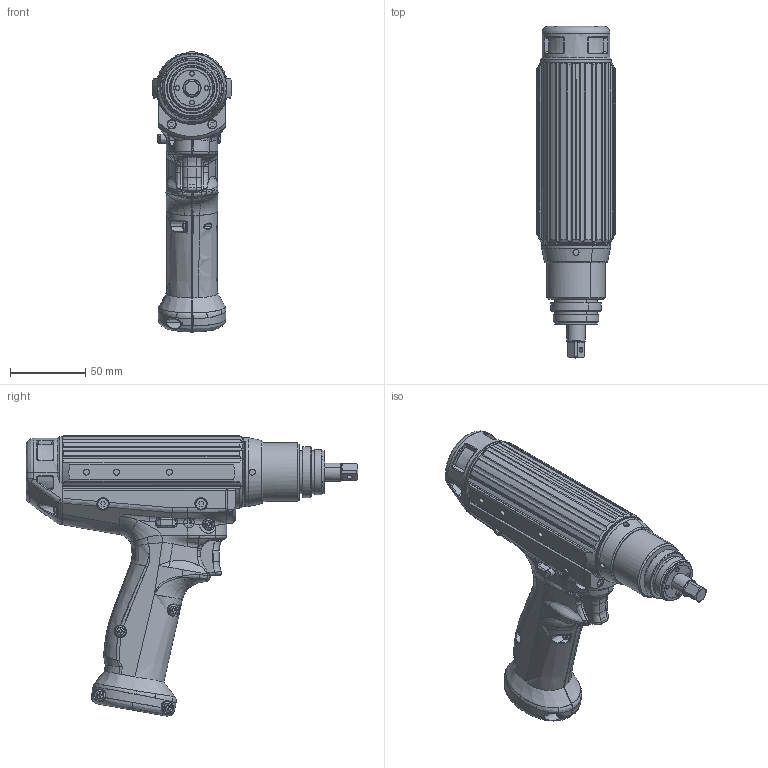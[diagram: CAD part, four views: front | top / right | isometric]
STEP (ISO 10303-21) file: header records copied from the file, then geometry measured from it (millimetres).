
FILE_DESCRIPTION(('STEP AP203'),'2;1');
FILE_NAME('EH2-R1020-PH.stp','2009-03-17T20:46:49',(''),(''),'2007.1.106','THINKDESIGN','');
FILE_SCHEMA(('CONFIG_CONTROL_DESIGN'));
Bounding box: 52 x 220 x 185.7 mm (x, y, z)
Surface area: 94101.9 mm2 (no closed solid volume)
Topology: 0 solids, 0 shells, 1383 faces, 8448 edges, 8319 vertices
Faces by surface type: bspline 1075, plane 308
Entity records: 108243 total; most frequent: CARTESIAN_POINT 83308, COMPOSITE_CURVE_SEGMENT 8312, B_SPLINE_CURVE_WITH_KNOTS 4504, DIRECTION 2358, VECTOR 1744, LINE 1744, TRIMMED_CURVE 1744, OUTER_BOUNDARY_CURVE 1376
